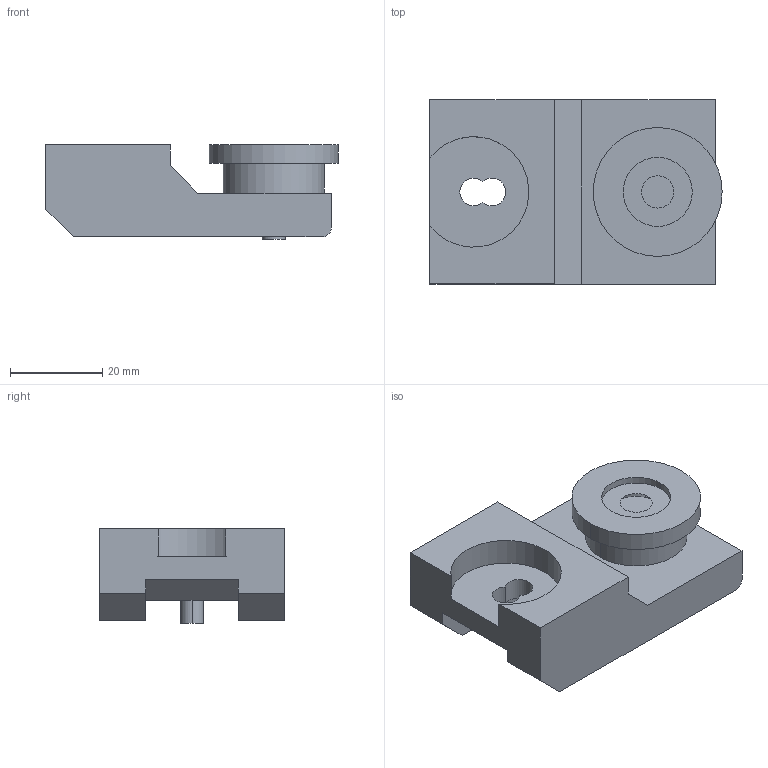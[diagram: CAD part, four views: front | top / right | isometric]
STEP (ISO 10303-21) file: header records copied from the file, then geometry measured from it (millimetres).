
FILE_DESCRIPTION((''),'2;1');
FILE_NAME('CHM3030_ASM','2002-12-27T',('Lipro doo'),('Lipro d.o.o.'),'PRO/ENGINEER BY PARAMETRIC TECHNOLOGY CORPORATION, 2001150','PRO/ENGINEER BY PARAMETRIC TECHNOLOGY CORPORATION, 2001150','');
FILE_SCHEMA(('CONFIG_CONTROL_DESIGN'));
Length unit declared in the file: millimetre
Products named in the file (4): CHM_1; CHM_2; CHM_33; CHM3030_ASM
Assembly tree (3 placements, depth 2):
  CHM3030_ASM
    CHM_1
    CHM_2
    CHM_33
Bounding box: 63.5 x 40 x 20.5 mm (x, y, z)
Volume: 28781.3 mm3; surface area: 12063.5 mm2
Topology: 3 solids, 4 shells, 43 faces, 105 edges, 70 vertices
Faces by surface type: plane 24, cylinder 17, cone 2
Entity records: 1415 total; most frequent: DIRECTION 247, CARTESIAN_POINT 227, ORIENTED_EDGE 206, EDGE_CURVE 105, AXIS2_PLACEMENT_3D 90, VERTEX_POINT 70, VECTOR 67, LINE 67
